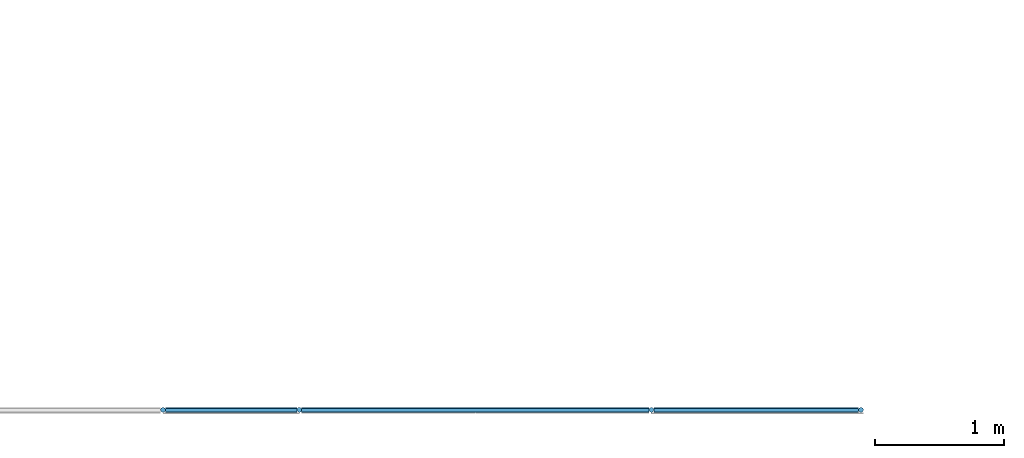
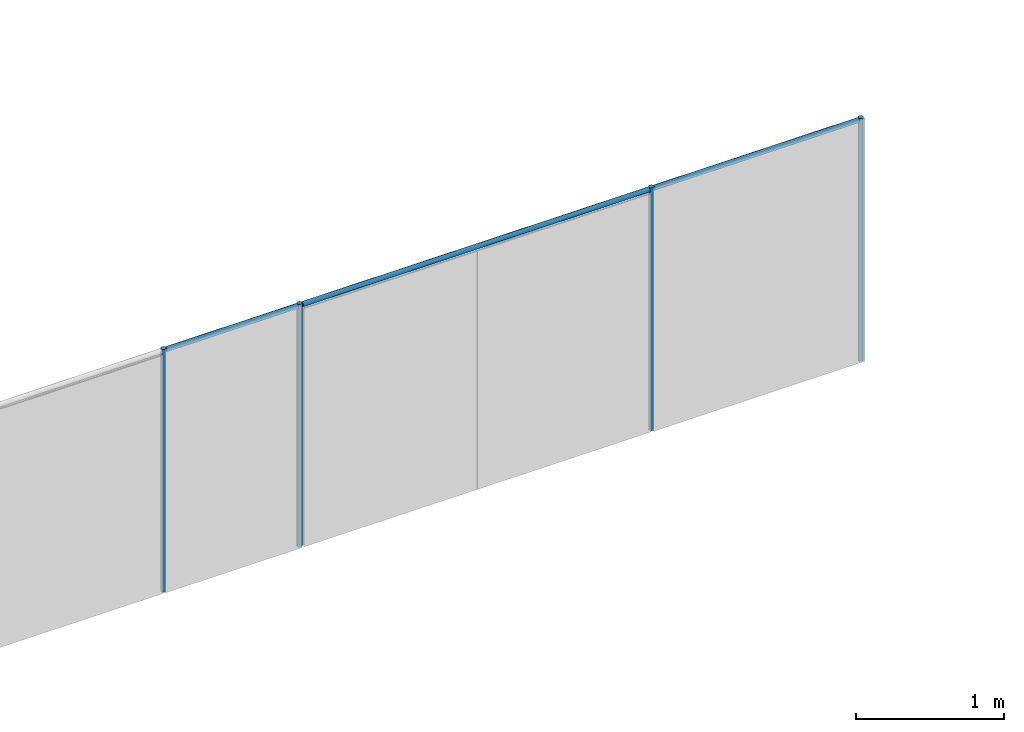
# One storey, part 3 of 87: 7 members, 1 element without a shape of its own.
"""IFC2X3 building model written with IfcOpenShell, lengths in metres."""

from ifc_helpers import new_model, entity, si_unit, converted_unit, frame, origin, origin_2d_with_axis, place, context, project, spatial, circle, extrude, source, transform, mapped, material, type_object, type_shapes, element, aggregate, save


model = new_model("IFC2X3")

# Units and contexts
model_context = context("Model", 3, precision=1e-09, world=origin())
plan_context = context("Plan", 3, precision=1e-09, world=origin())
ifc_project = project(units=[si_unit("LENGTHUNIT", "METRE"), si_unit("AREAUNIT", "SQUARE_METRE"), si_unit("VOLUMEUNIT", "CUBIC_METRE"), converted_unit("PLANEANGLEUNIT", "DEGREE", entity("IfcRatioMeasure", 0.01745329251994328), si_unit("PLANEANGLEUNIT", "RADIAN"), dimensions=[0, 0, 0, 0, 0, 0, 0]), si_unit("TIMEUNIT", "SECOND")], contexts=[model_context, plan_context])

# Site, building, storey
site_placement = place(None, origin())
site = spatial("IfcSite", under=ifc_project, at=site_placement, Name="Default", CompositionType="ELEMENT")
building_placement = place(site_placement, origin())
building = spatial("IfcBuilding", under=site, at=building_placement, CompositionType="ELEMENT")
storey_placement = place(building_placement, origin())
storey = spatial("IfcBuildingStorey", under=building, at=storey_placement, Name="First Floor", CompositionType="ELEMENT", Elevation=-3.531500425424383e-13)

# Curtain wall, members
curtain_wall_placement = place(storey_placement, origin())
curtain_wall = element("IfcCurtainWall", 1, at=curtain_wall_placement, inside=storey, Name="Curtain Wall:Chain Link Fence", ObjectType="Curtain Wall:Chain Link Fence")
ifc_material = material(Name="Metal - Aluminium")
member_type_1 = type_object("IfcMemberType", Name="19mm Radius", PredefinedType="MULLION")
shared_shape_1 = source(origin(), model_context, "Body", "SweptSolid", [
    extrude(circle(Radius=0.019, at=origin_2d_with_axis()), frame((-0.019, 0.0, -1.59213127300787)), (0.0, 0.0, 1.0), 1.592131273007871),
])
type_shapes(member_type_1, [shared_shape_1])
member_1_placement = place(storey_placement, frame((-29.89766183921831, -9.554161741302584, 1.0), z_axis=(1.0, 0.0, 0.0), x_axis=(0.0, 0.0, 1.0)))
member_1 = element("IfcMember", 2, at=member_1_placement, type_object=member_type_1, material=ifc_material, Name="Circular Mullion:19mm Radius:19mm Radius", ObjectType="19mm Radius", context=model_context, shape_type="MappedRepresentation", body=[
    mapped(shared_shape_1, transform((0.0, 0.0, 0.0), scale=1.0)),
])
member_type_2 = type_object("IfcMemberType", Name="19mm Radius", PredefinedType="MULLION")
shared_shape_2 = source(origin(), model_context, "Body", "SweptSolid", [
    extrude(circle(Radius=0.019, at=origin_2d_with_axis()), frame((-0.019, 0.0, -2.701999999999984)), (0.0, 0.0, 1.0), 2.701999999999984),
])
type_shapes(member_type_2, [shared_shape_2])
member_2_placement = place(storey_placement, frame((-31.52779311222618, -9.554161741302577, 1.0), z_axis=(1.0, 0.0, 0.0), x_axis=(0.0, 0.0, 1.0)))
member_2 = element("IfcMember", 3, at=member_2_placement, type_object=member_type_2, material=ifc_material, Name="Circular Mullion:19mm Radius:19mm Radius", ObjectType="19mm Radius", context=model_context, shape_type="MappedRepresentation", body=[
    mapped(shared_shape_2, transform((0.0, 0.0, 0.0), scale=1.0)),
])
member_type_3 = type_object("IfcMemberType", Name="19mm Radius", PredefinedType="MULLION")
shared_shape_3 = source(origin(), model_context, "Body", "SweptSolid", [
    extrude(circle(Radius=0.019, at=origin_2d_with_axis()), frame((-0.019, 0.0, -1.022368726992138)), (0.0, 0.0, 1.0), 1.022368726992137),
])
type_shapes(member_type_3, [shared_shape_3])
member_3_placement = place(storey_placement, frame((-34.26779311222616, -9.55416174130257, 1.0), z_axis=(1.0, 0.0, 0.0), x_axis=(0.0, 0.0, 1.0)))
member_3 = element("IfcMember", 4, at=member_3_placement, type_object=member_type_3, material=ifc_material, Name="Circular Mullion:19mm Radius:19mm Radius", ObjectType="19mm Radius", context=model_context, shape_type="MappedRepresentation", body=[
    mapped(shared_shape_3, transform((0.0, 0.0, 0.0), scale=1.0)),
])
member_type_4 = type_object("IfcMemberType", Name="19mm Radius", PredefinedType="MULLION")
shared_shape_4 = source(origin(), model_context, "Body", "SweptSolid", [
    extrude(circle(Radius=0.019, at=origin_2d_with_axis()), frame((-0.019, 0.0, -2.0)), (0.0, 0.0, 1.0), 2.0),
])
type_shapes(member_type_4, [shared_shape_4])
placement = place(building_placement, frame((0.0, 0.0, -1.0)))
member_4_placement = place(placement, frame((-29.85966183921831, -9.554161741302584, 0.0), z_axis=(0.0, 0.0, -1.0), x_axis=(1.0, 0.0, 0.0)))
member_4 = element("IfcMember", 5, at=member_4_placement, type_object=member_type_4, material=ifc_material, Name="Circular Mullion:19mm Radius:19mm Radius", ObjectType="19mm Radius", context=model_context, shape_type="MappedRepresentation", body=[
    mapped(shared_shape_4, transform((0.0, 0.0, 0.0), scale=1.0)),
])
member_type_5 = type_object("IfcMemberType", Name="19mm Radius", PredefinedType="MULLION")
shared_shape_5 = source(origin(), model_context, "Body", "SweptSolid", [
    extrude(circle(Radius=0.019, at=origin_2d_with_axis()), frame((0.0, 0.0, -2.0)), (0.0, 0.0, 1.0), 2.0),
])
type_shapes(member_type_5, [shared_shape_5])
member_5_placement = place(placement, frame((-35.3091618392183, -9.554161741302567, 0.0), z_axis=(0.0, 0.0, -1.0), x_axis=(1.0, 0.0, 0.0)))
member_5 = element("IfcMember", 6, at=member_5_placement, type_object=member_type_5, material=ifc_material, Name="Circular Mullion:19mm Radius:19mm Radius", ObjectType="19mm Radius", context=model_context, shape_type="MappedRepresentation", body=[
    mapped(shared_shape_5, transform((0.0, 0.0, 0.0), scale=1.0)),
])
member_6_placement = place(placement, frame((-34.24879311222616, -9.55416174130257, 0.0), z_axis=(0.0, 0.0, -1.0), x_axis=(1.0, 0.0, 0.0)))
member_6 = element("IfcMember", 7, at=member_6_placement, type_object=member_type_5, material=ifc_material, Name="Circular Mullion:19mm Radius:19mm Radius", ObjectType="19mm Radius", context=model_context, shape_type="MappedRepresentation", body=[
    mapped(shared_shape_5, transform((0.0, 0.0, 0.0), scale=1.0)),
])
member_7_placement = place(placement, frame((-31.50879311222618, -9.554161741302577, 0.0), z_axis=(0.0, 0.0, -1.0), x_axis=(1.0, 0.0, 0.0)))
member_7 = element("IfcMember", 8, at=member_7_placement, type_object=member_type_5, material=ifc_material, Name="Circular Mullion:19mm Radius:19mm Radius", ObjectType="19mm Radius", context=model_context, shape_type="MappedRepresentation", body=[
    mapped(shared_shape_5, transform((0.0, 0.0, 0.0), scale=1.0)),
])
aggregate(curtain_wall, [member_1, member_3, member_2, member_4, member_5, member_6, member_7])

save(model, "model.ifc")
